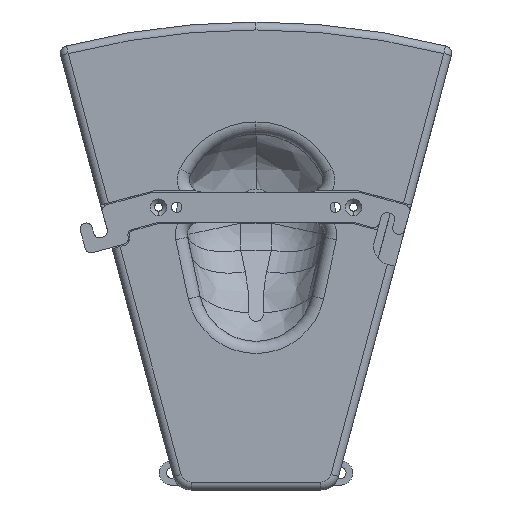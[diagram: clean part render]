
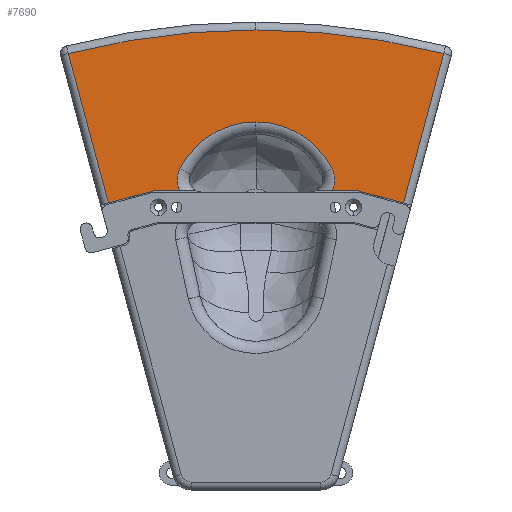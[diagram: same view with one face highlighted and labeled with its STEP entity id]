
A CAD part, front view. The second image highlights one B-rep face of the part: STEP entity #7690.
In plain terms, the highlighted planar face has unit normal (0, -1, 0).
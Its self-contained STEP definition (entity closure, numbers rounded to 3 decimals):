
#790 = EDGE_LOOP ( 'NONE', ( #11997, #11966, #11936, #11999, #11954, #11965, #11968, #12000, #11985, #11967, #12028, #12014, #12004, #12091 ) ) ;
#3785 = VECTOR ( 'NONE', #17473, 1000. ) ;
#3808 = CIRCLE ( 'NONE', #26656, 619.371 ) ;
#3834 = LINE ( 'NONE', #17467, #3785 ) ;
#3871 = LINE ( 'NONE', #17452, #3877 ) ;
#3877 = VECTOR ( 'NONE', #17465, 1000. ) ;
#3886 = CIRCLE ( 'NONE', #26608, 70. ) ;
#3908 = CIRCLE ( 'NONE', #26599, 20. ) ;
#3945 = CIRCLE ( 'NONE', #26629, 20. ) ;
#3967 = LINE ( 'NONE', #17445, #3972 ) ;
#3972 = VECTOR ( 'NONE', #17488, 1000. ) ;
#3977 = CIRCLE ( 'NONE', #26685, 70. ) ;
#4104 = CIRCLE ( 'NONE', #26711, 619.371 ) ;
#4132 = LINE ( 'NONE', #16484, #4150 ) ;
#4150 = VECTOR ( 'NONE', #16547, 1000. ) ;
#7047 = LINE ( 'NONE', #18496, #7063 ) ;
#7063 = VECTOR ( 'NONE', #18490, 1000. ) ;
#7690 = ADVANCED_FACE ( 'NONE', ( #9497 ), #13174, .T. ) ;
#9497 = FACE_OUTER_BOUND ( 'NONE', #790, .T. ) ;
#11936 = ORIENTED_EDGE ( 'NONE', *, *, #29525, .T. ) ;
#11954 = ORIENTED_EDGE ( 'NONE', *, *, #29556, .T. ) ;
#11965 = ORIENTED_EDGE ( 'NONE', *, *, #29662, .F. ) ;
#11966 = ORIENTED_EDGE ( 'NONE', *, *, #29569, .T. ) ;
#11967 = ORIENTED_EDGE ( 'NONE', *, *, #29605, .T. ) ;
#11968 = ORIENTED_EDGE ( 'NONE', *, *, #30553, .T. ) ;
#11985 = ORIENTED_EDGE ( 'NONE', *, *, #29610, .T. ) ;
#11997 = ORIENTED_EDGE ( 'NONE', *, *, #29292, .F. ) ;
#11999 = ORIENTED_EDGE ( 'NONE', *, *, #29659, .T. ) ;
#12000 = ORIENTED_EDGE ( 'NONE', *, *, #30524, .F. ) ;
#12004 = ORIENTED_EDGE ( 'NONE', *, *, #29554, .F. ) ;
#12014 = ORIENTED_EDGE ( 'NONE', *, *, #29582, .T. ) ;
#12028 = ORIENTED_EDGE ( 'NONE', *, *, #29578, .T. ) ;
#12091 = ORIENTED_EDGE ( 'NONE', *, *, #30527, .T. ) ;
#13132 = DIRECTION ( 'NONE',  ( 0., -1., 0. ) ) ;
#13133 = DIRECTION ( 'NONE',  ( 0., 0., -1. ) ) ;
#13145 = CARTESIAN_POINT ( 'NONE',  ( -153.5, -350., -25.887 ) ) ;
#13174 = PLANE ( 'NONE',  #28589 ) ;
#14993 = CARTESIAN_POINT ( 'NONE',  ( 82.515, -350., -146.5 ) ) ;
#14995 = DIRECTION ( 'NONE',  ( -1., 0., 0. ) ) ;
#15011 = DIRECTION ( 'NONE',  ( 0., 1., 0. ) ) ;
#15012 = DIRECTION ( 'NONE',  ( 0., 0., 1. ) ) ;
#15035 = CARTESIAN_POINT ( 'NONE',  ( -83.832, -350., -136.5 ) ) ;
#15097 = DIRECTION ( 'NONE',  ( 0., 0., 1. ) ) ;
#15109 = CARTESIAN_POINT ( 'NONE',  ( -82.515, -350., -146.5 ) ) ;
#15119 = DIRECTION ( 'NONE',  ( 0., 1., 0. ) ) ;
#16484 = CARTESIAN_POINT ( 'NONE',  ( -127.458, -350., -148.19 ) ) ;
#16486 = DIRECTION ( 'NONE',  ( 0., 0., 1. ) ) ;
#16506 = CARTESIAN_POINT ( 'NONE',  ( 0., -350., -623.871 ) ) ;
#16507 = DIRECTION ( 'NONE',  ( 0., -1., 0. ) ) ;
#16547 = DIRECTION ( 'NONE',  ( -0.966, 0., -0.259 ) ) ;
#17233 = CARTESIAN_POINT ( 'NONE',  ( 0., -350., -623.871 ) ) ;
#17281 = DIRECTION ( 'NONE',  ( 0., -1., 0. ) ) ;
#17282 = DIRECTION ( 'NONE',  ( 0., 0., 1. ) ) ;
#17445 = CARTESIAN_POINT ( 'NONE',  ( 132.935, -350., -102.637 ) ) ;
#17452 = CARTESIAN_POINT ( 'NONE',  ( -153.5, -350., -25.887 ) ) ;
#17465 = DIRECTION ( 'NONE',  ( 0.259, 0., -0.966 ) ) ;
#17467 = CARTESIAN_POINT ( 'NONE',  ( -83.832, -350., -136.5 ) ) ;
#17473 = DIRECTION ( 'NONE',  ( -1., 0., 0. ) ) ;
#17482 = CARTESIAN_POINT ( 'NONE',  ( 0., -350., -150. ) ) ;
#17487 = DIRECTION ( 'NONE',  ( 0., 1., 0. ) ) ;
#17488 = DIRECTION ( 'NONE',  ( 0.259, 0., 0.966 ) ) ;
#17489 = DIRECTION ( 'NONE',  ( 0., 0., 1. ) ) ;
#17494 = DIRECTION ( 'NONE',  ( 0., 1., 0. ) ) ;
#17495 = DIRECTION ( 'NONE',  ( 0., 0., 1. ) ) ;
#17534 = CARTESIAN_POINT ( 'NONE',  ( 44.651, -350., -127.5 ) ) ;
#17538 = CARTESIAN_POINT ( 'NONE',  ( 0., -350., -150. ) ) ;
#17539 = DIRECTION ( 'NONE',  ( 0., 0., 1. ) ) ;
#17550 = DIRECTION ( 'NONE',  ( 0., 1., 0. ) ) ;
#17556 = DIRECTION ( 'NONE',  ( 0., 0., 1. ) ) ;
#17561 = CARTESIAN_POINT ( 'NONE',  ( -44.651, -350., -127.5 ) ) ;
#17562 = DIRECTION ( 'NONE',  ( 0., 1., 0. ) ) ;
#17929 = CARTESIAN_POINT ( 'NONE',  ( 154.018, -350., -23.955 ) ) ;
#17946 = CARTESIAN_POINT ( 'NONE',  ( 0., -350., -80. ) ) ;
#17967 = CARTESIAN_POINT ( 'NONE',  ( 62.512, -350., -118.5 ) ) ;
#17990 = CARTESIAN_POINT ( 'NONE',  ( 0., -350., -4.5 ) ) ;
#18490 = DIRECTION ( 'NONE',  ( -0.966, 0., 0.259 ) ) ;
#18496 = CARTESIAN_POINT ( 'NONE',  ( 83.832, -350., -136.5 ) ) ;
#18854 = CARTESIAN_POINT ( 'NONE',  ( -62.512, -350., -118.5 ) ) ;
#18856 = CARTESIAN_POINT ( 'NONE',  ( 82.515, -350., -136.5 ) ) ;
#18874 = CARTESIAN_POINT ( 'NONE',  ( -85.104, -350., -136.841 ) ) ;
#18897 = CARTESIAN_POINT ( 'NONE',  ( 62.512, -350., -136.5 ) ) ;
#18898 = CARTESIAN_POINT ( 'NONE',  ( -154.018, -350., -23.955 ) ) ;
#18902 = CARTESIAN_POINT ( 'NONE',  ( -62.512, -350., -136.5 ) ) ;
#18905 = CARTESIAN_POINT ( 'NONE',  ( -121.18, -350., -146.507 ) ) ;
#18932 = CARTESIAN_POINT ( 'NONE',  ( -82.515, -350., -136.5 ) ) ;
#18941 = CARTESIAN_POINT ( 'NONE',  ( 121.18, -350., -146.507 ) ) ;
#19003 = CARTESIAN_POINT ( 'NONE',  ( 85.104, -350., -136.841 ) ) ;
#25370 = VERTEX_POINT ( 'NONE', #18854 ) ;
#25377 = VERTEX_POINT ( 'NONE', #18902 ) ;
#25384 = VERTEX_POINT ( 'NONE', #18856 ) ;
#25391 = VERTEX_POINT ( 'NONE', #18874 ) ;
#25393 = VERTEX_POINT ( 'NONE', #18905 ) ;
#25400 = VERTEX_POINT ( 'NONE', #18897 ) ;
#25401 = VERTEX_POINT ( 'NONE', #18898 ) ;
#25413 = VERTEX_POINT ( 'NONE', #18941 ) ;
#25466 = VERTEX_POINT ( 'NONE', #18932 ) ;
#25486 = VERTEX_POINT ( 'NONE', #19003 ) ;
#25836 = VERTEX_POINT ( 'NONE', #17929 ) ;
#25852 = VERTEX_POINT ( 'NONE', #17946 ) ;
#25862 = VERTEX_POINT ( 'NONE', #17967 ) ;
#25872 = VERTEX_POINT ( 'NONE', #17990 ) ;
#26599 = AXIS2_PLACEMENT_3D ( 'NONE', #17561, #17562, #17556 ) ;
#26608 = AXIS2_PLACEMENT_3D ( 'NONE', #17482, #17487, #17489 ) ;
#26629 = AXIS2_PLACEMENT_3D ( 'NONE', #17534, #17494, #17495 ) ;
#26656 = AXIS2_PLACEMENT_3D ( 'NONE', #17233, #17281, #17282 ) ;
#26685 = AXIS2_PLACEMENT_3D ( 'NONE', #17538, #17550, #17539 ) ;
#26711 = AXIS2_PLACEMENT_3D ( 'NONE', #16506, #16507, #16486 ) ;
#27124 = VECTOR ( 'NONE', #14995, 1000. ) ;
#27141 = CIRCLE ( 'NONE', #27284, 10. ) ;
#27201 = LINE ( 'NONE', #15035, #27124 ) ;
#27244 = CIRCLE ( 'NONE', #27260, 10. ) ;
#27260 = AXIS2_PLACEMENT_3D ( 'NONE', #15109, #15119, #15097 ) ;
#27284 = AXIS2_PLACEMENT_3D ( 'NONE', #14993, #15011, #15012 ) ;
#28589 = AXIS2_PLACEMENT_3D ( 'NONE', #13145, #13132, #13133 ) ;
#29292 = EDGE_CURVE ( 'NONE', #25413, #25486, #7047, .T. ) ;
#29525 = EDGE_CURVE ( 'NONE', #25836, #25872, #3808, .T. ) ;
#29554 = EDGE_CURVE ( 'NONE', #25384, #25400, #3834, .T. ) ;
#29556 = EDGE_CURVE ( 'NONE', #25401, #25393, #3871, .T. ) ;
#29569 = EDGE_CURVE ( 'NONE', #25413, #25836, #3967, .T. ) ;
#29578 = EDGE_CURVE ( 'NONE', #25852, #25862, #3886, .T. ) ;
#29582 = EDGE_CURVE ( 'NONE', #25862, #25400, #3945, .T. ) ;
#29605 = EDGE_CURVE ( 'NONE', #25370, #25852, #3977, .T. ) ;
#29610 = EDGE_CURVE ( 'NONE', #25377, #25370, #3908, .T. ) ;
#29659 = EDGE_CURVE ( 'NONE', #25872, #25401, #4104, .T. ) ;
#29662 = EDGE_CURVE ( 'NONE', #25391, #25393, #4132, .T. ) ;
#30524 = EDGE_CURVE ( 'NONE', #25377, #25466, #27201, .T. ) ;
#30527 = EDGE_CURVE ( 'NONE', #25384, #25486, #27141, .T. ) ;
#30553 = EDGE_CURVE ( 'NONE', #25391, #25466, #27244, .T. ) ;
